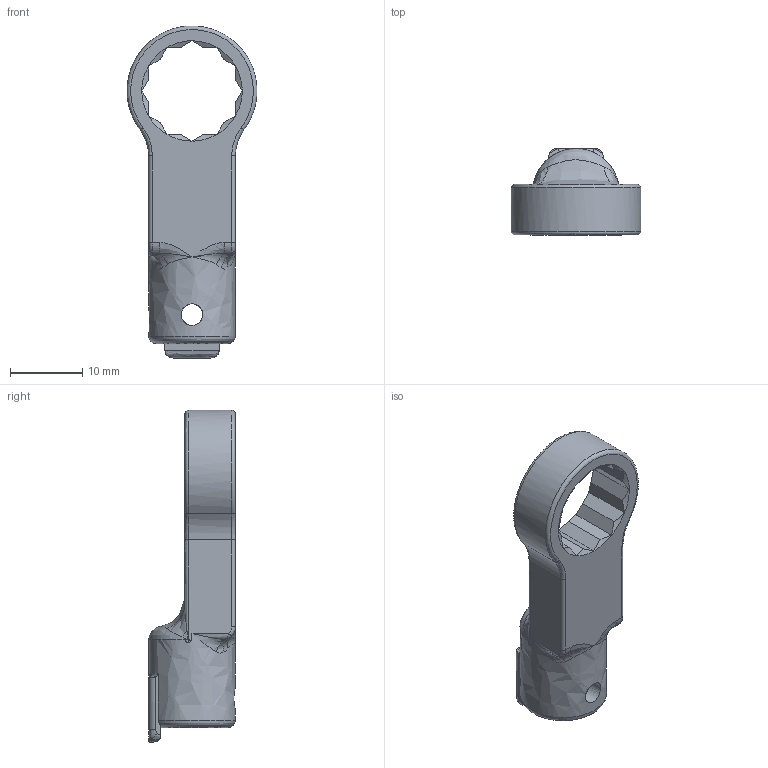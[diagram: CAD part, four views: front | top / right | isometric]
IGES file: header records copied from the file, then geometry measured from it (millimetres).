
Global section: file name: RH8DX12; native system: Autodesk Inventor 2016; preprocessor: unknown; author: Q600; date: 20151110.153722; units: millimetre
Bounding box: 18 x 12 x 46 mm (x, y, z)
Volume: 2999.1 mm3; surface area: 2281.1 mm2
Topology: 1 solids, 1 shells, 114 faces, 306 edges, 181 vertices
Faces by surface type: bspline 114
